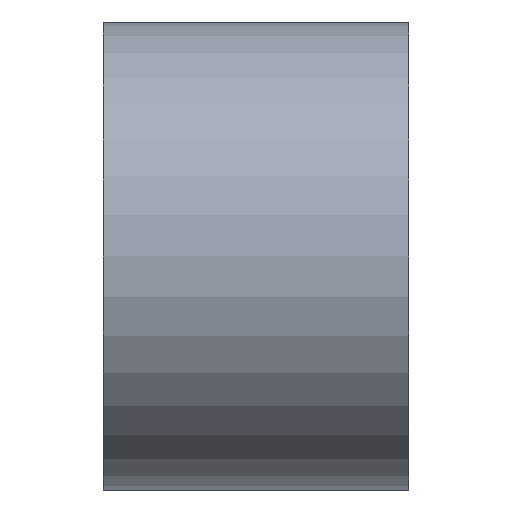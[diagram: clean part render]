
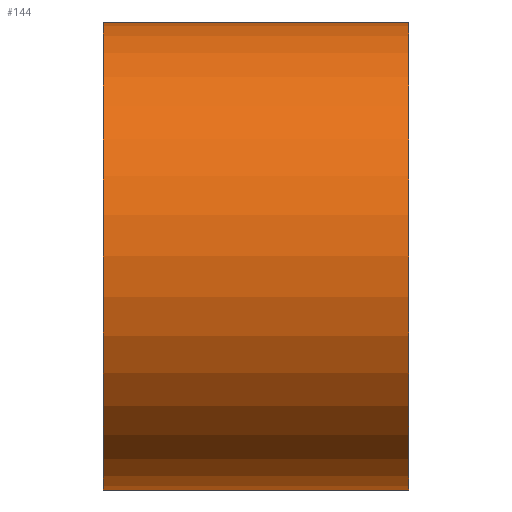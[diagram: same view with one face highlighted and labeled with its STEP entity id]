
A CAD part, left-side view. The second image highlights one B-rep face of the part: STEP entity #144.
In plain terms, the highlighted cylindrical face has radius 3.825 mm (diameter 7.649 mm), a partial arc.
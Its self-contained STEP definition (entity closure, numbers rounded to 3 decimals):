
#26=FACE_OUTER_BOUND('',#34,.T.);
#34=EDGE_LOOP('',(#113,#114,#115,#116));
#48=LINE('',#244,#58);
#49=LINE('',#250,#59);
#58=VECTOR('',#200,10.);
#59=VECTOR('',#207,10.);
#67=CIRCLE('',#171,3.825);
#68=CIRCLE('',#172,3.825);
#75=VERTEX_POINT('',#237);
#78=VERTEX_POINT('',#242);
#79=VERTEX_POINT('',#246);
#80=VERTEX_POINT('',#248);
#92=EDGE_CURVE('',#75,#78,#48,.T.);
#93=EDGE_CURVE('',#79,#75,#67,.T.);
#94=EDGE_CURVE('',#80,#78,#68,.T.);
#95=EDGE_CURVE('',#79,#80,#49,.T.);
#113=ORIENTED_EDGE('',*,*,#93,.T.);
#114=ORIENTED_EDGE('',*,*,#92,.T.);
#115=ORIENTED_EDGE('',*,*,#94,.F.);
#116=ORIENTED_EDGE('',*,*,#95,.F.);
#139=CYLINDRICAL_SURFACE('',#170,3.825);
#144=ADVANCED_FACE('',(#26),#139,.T.);
#170=AXIS2_PLACEMENT_3D('',#245,#201,#202);
#171=AXIS2_PLACEMENT_3D('',#247,#203,#204);
#172=AXIS2_PLACEMENT_3D('',#249,#205,#206);
#200=DIRECTION('',(0.,1.,0.));
#201=DIRECTION('center_axis',(0.,1.,0.));
#202=DIRECTION('ref_axis',(0.,0.,-1.));
#203=DIRECTION('center_axis',(0.,1.,0.));
#204=DIRECTION('ref_axis',(0.,0.,-1.));
#205=DIRECTION('center_axis',(0.,1.,0.));
#206=DIRECTION('ref_axis',(0.,0.,-1.));
#207=DIRECTION('',(0.,1.,0.));
#237=CARTESIAN_POINT('',(34.656,188.34,18.04));
#242=CARTESIAN_POINT('',(34.656,193.34,18.04));
#244=CARTESIAN_POINT('',(34.656,188.34,18.04));
#245=CARTESIAN_POINT('Origin',(34.656,188.34,14.215));
#246=CARTESIAN_POINT('',(34.656,188.34,10.391));
#247=CARTESIAN_POINT('Origin',(34.656,188.34,14.215));
#248=CARTESIAN_POINT('',(34.656,193.34,10.391));
#249=CARTESIAN_POINT('Origin',(34.656,193.34,14.215));
#250=CARTESIAN_POINT('',(34.656,188.34,10.391));
